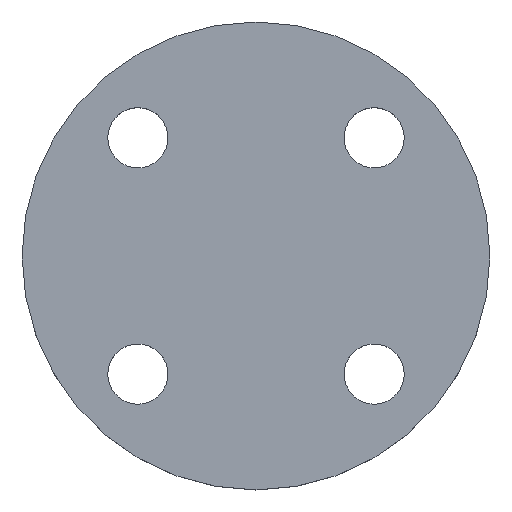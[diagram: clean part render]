
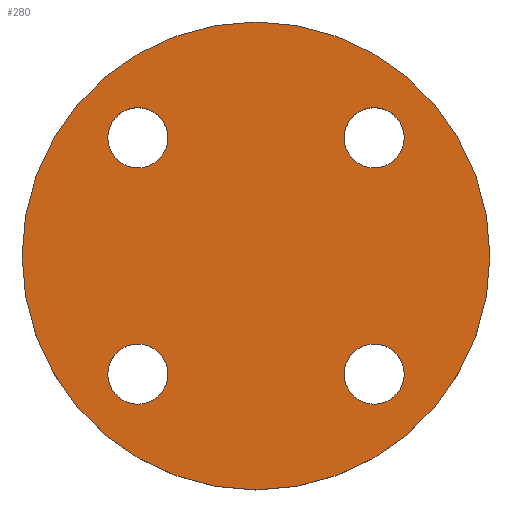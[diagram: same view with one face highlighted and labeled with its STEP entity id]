
A CAD part, top view. The second image highlights one B-rep face of the part: STEP entity #280.
In plain terms, the highlighted planar face has unit normal (0, 0, 1).
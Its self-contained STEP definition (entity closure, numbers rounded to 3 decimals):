
#4 = CIRCLE ( 'NONE', #105, 70. ) ;
#8 = CIRCLE ( 'NONE', #86, 9. ) ;
#11 = CARTESIAN_POINT ( 'NONE',  ( -26.355, 35.355, 0. ) ) ;
#13 = EDGE_CURVE ( 'NONE', #489, #406, #274, .T. ) ;
#20 = ORIENTED_EDGE ( 'NONE', *, *, #400, .T. ) ;
#23 = EDGE_CURVE ( 'NONE', #122, #54, #51, .T. ) ;
#27 = VERTEX_POINT ( 'NONE', #46 ) ;
#35 = AXIS2_PLACEMENT_3D ( 'NONE', #134, #304, #479 ) ;
#39 = ORIENTED_EDGE ( 'NONE', *, *, #364, .T. ) ;
#46 = CARTESIAN_POINT ( 'NONE',  ( -44.355, 35.355, 0. ) ) ;
#51 = CIRCLE ( 'NONE', #296, 9. ) ;
#54 = VERTEX_POINT ( 'NONE', #178 ) ;
#61 = AXIS2_PLACEMENT_3D ( 'NONE', #476, #88, #255 ) ;
#66 = EDGE_LOOP ( 'NONE', ( #403, #324 ) ) ;
#71 = DIRECTION ( 'NONE',  ( 1., 0., 0. ) ) ;
#85 = CARTESIAN_POINT ( 'NONE',  ( 0., 0., 0. ) ) ;
#86 = AXIS2_PLACEMENT_3D ( 'NONE', #150, #318, #495 ) ;
#88 = DIRECTION ( 'NONE',  ( 0., 0., -1. ) ) ;
#90 = CARTESIAN_POINT ( 'NONE',  ( -35.355, -35.355, 0. ) ) ;
#99 = EDGE_LOOP ( 'NONE', ( #559, #182 ) ) ;
#103 = CARTESIAN_POINT ( 'NONE',  ( 44.355, -35.355, 0. ) ) ;
#104 = ORIENTED_EDGE ( 'NONE', *, *, #456, .T. ) ;
#105 = AXIS2_PLACEMENT_3D ( 'NONE', #281, #458, #71 ) ;
#108 = DIRECTION ( 'NONE',  ( 0., 0., -1. ) ) ;
#113 = CIRCLE ( 'NONE', #431, 9. ) ;
#115 = VERTEX_POINT ( 'NONE', #11 ) ;
#120 = DIRECTION ( 'NONE',  ( 0., 0., -1. ) ) ;
#122 = VERTEX_POINT ( 'NONE', #184 ) ;
#124 = EDGE_LOOP ( 'NONE', ( #20, #556 ) ) ;
#125 = AXIS2_PLACEMENT_3D ( 'NONE', #511, #120, #287 ) ;
#128 = FACE_BOUND ( 'NONE', #99, .T. ) ;
#129 = DIRECTION ( 'NONE',  ( 0., 0., -1. ) ) ;
#131 = DIRECTION ( 'NONE',  ( 0., 0., -1. ) ) ;
#134 = CARTESIAN_POINT ( 'NONE',  ( 0., 0., 0. ) ) ;
#135 = AXIS2_PLACEMENT_3D ( 'NONE', #567, #131, #302 ) ;
#143 = EDGE_CURVE ( 'NONE', #115, #27, #450, .T. ) ;
#147 = CARTESIAN_POINT ( 'NONE',  ( 35.355, 35.355, 0. ) ) ;
#150 = CARTESIAN_POINT ( 'NONE',  ( 35.355, -35.355, 0. ) ) ;
#170 = FACE_BOUND ( 'NONE', #188, .T. ) ;
#172 = EDGE_CURVE ( 'NONE', #27, #115, #376, .T. ) ;
#178 = CARTESIAN_POINT ( 'NONE',  ( -44.355, -35.355, 0. ) ) ;
#182 = ORIENTED_EDGE ( 'NONE', *, *, #429, .T. ) ;
#184 = CARTESIAN_POINT ( 'NONE',  ( -26.355, -35.355, 0. ) ) ;
#188 = EDGE_LOOP ( 'NONE', ( #309, #104 ) ) ;
#199 = VERTEX_POINT ( 'NONE', #389 ) ;
#217 = AXIS2_PLACEMENT_3D ( 'NONE', #523, #129, #300 ) ;
#236 = CARTESIAN_POINT ( 'NONE',  ( 26.355, 35.355, 0. ) ) ;
#238 = CARTESIAN_POINT ( 'NONE',  ( 70., 0., 0. ) ) ;
#252 = DIRECTION ( 'NONE',  ( 0., 0., 1. ) ) ;
#255 = DIRECTION ( 'NONE',  ( -1., 0., 0. ) ) ;
#258 = DIRECTION ( 'NONE',  ( 0., 0., -1. ) ) ;
#274 = CIRCLE ( 'NONE', #35, 70. ) ;
#276 = DIRECTION ( 'NONE',  ( -1., 0., 0. ) ) ;
#280 = ADVANCED_FACE ( 'NONE', ( #170, #339, #522, #128, #299 ), #473, .T. ) ;
#281 = CARTESIAN_POINT ( 'NONE',  ( 0., 0., 0. ) ) ;
#282 = ORIENTED_EDGE ( 'NONE', *, *, #23, .T. ) ;
#287 = DIRECTION ( 'NONE',  ( -1., 0., 0. ) ) ;
#295 = CIRCLE ( 'NONE', #217, 9. ) ;
#296 = AXIS2_PLACEMENT_3D ( 'NONE', #90, #258, #437 ) ;
#299 = FACE_OUTER_BOUND ( 'NONE', #124, .T. ) ;
#300 = DIRECTION ( 'NONE',  ( -1., 0., 0. ) ) ;
#301 = CIRCLE ( 'NONE', #371, 9. ) ;
#302 = DIRECTION ( 'NONE',  ( -1., 0., 0. ) ) ;
#304 = DIRECTION ( 'NONE',  ( 0., 0., 1. ) ) ;
#309 = ORIENTED_EDGE ( 'NONE', *, *, #341, .T. ) ;
#311 = EDGE_LOOP ( 'NONE', ( #282, #39 ) ) ;
#314 = DIRECTION ( 'NONE',  ( 0., 0., -1. ) ) ;
#318 = DIRECTION ( 'NONE',  ( 0., 0., -1. ) ) ;
#319 = CARTESIAN_POINT ( 'NONE',  ( 44.355, 35.355, 0. ) ) ;
#324 = ORIENTED_EDGE ( 'NONE', *, *, #172, .T. ) ;
#339 = FACE_BOUND ( 'NONE', #311, .T. ) ;
#341 = EDGE_CURVE ( 'NONE', #467, #199, #439, .T. ) ;
#364 = EDGE_CURVE ( 'NONE', #54, #122, #295, .T. ) ;
#371 = AXIS2_PLACEMENT_3D ( 'NONE', #497, #108, #276 ) ;
#376 = CIRCLE ( 'NONE', #61, 9. ) ;
#382 = VERTEX_POINT ( 'NONE', #236 ) ;
#389 = CARTESIAN_POINT ( 'NONE',  ( 26.355, -35.355, 0. ) ) ;
#400 = EDGE_CURVE ( 'NONE', #406, #489, #4, .T. ) ;
#403 = ORIENTED_EDGE ( 'NONE', *, *, #143, .T. ) ;
#405 = CARTESIAN_POINT ( 'NONE',  ( -70., 0., 0. ) ) ;
#406 = VERTEX_POINT ( 'NONE', #238 ) ;
#429 = EDGE_CURVE ( 'NONE', #382, #491, #113, .T. ) ;
#431 = AXIS2_PLACEMENT_3D ( 'NONE', #147, #314, #492 ) ;
#432 = DIRECTION ( 'NONE',  ( 1., 0., 0. ) ) ;
#437 = DIRECTION ( 'NONE',  ( -1., 0., 0. ) ) ;
#439 = CIRCLE ( 'NONE', #125, 9. ) ;
#450 = CIRCLE ( 'NONE', #135, 9. ) ;
#456 = EDGE_CURVE ( 'NONE', #199, #467, #8, .T. ) ;
#458 = DIRECTION ( 'NONE',  ( 0., 0., 1. ) ) ;
#467 = VERTEX_POINT ( 'NONE', #103 ) ;
#473 = PLANE ( 'NONE',  #482 ) ;
#476 = CARTESIAN_POINT ( 'NONE',  ( -35.355, 35.355, 0. ) ) ;
#479 = DIRECTION ( 'NONE',  ( 1., 0., 0. ) ) ;
#482 = AXIS2_PLACEMENT_3D ( 'NONE', #85, #252, #432 ) ;
#489 = VERTEX_POINT ( 'NONE', #405 ) ;
#491 = VERTEX_POINT ( 'NONE', #319 ) ;
#492 = DIRECTION ( 'NONE',  ( -1., 0., 0. ) ) ;
#495 = DIRECTION ( 'NONE',  ( -1., 0., 0. ) ) ;
#497 = CARTESIAN_POINT ( 'NONE',  ( 35.355, 35.355, 0. ) ) ;
#506 = EDGE_CURVE ( 'NONE', #491, #382, #301, .T. ) ;
#511 = CARTESIAN_POINT ( 'NONE',  ( 35.355, -35.355, 0. ) ) ;
#522 = FACE_BOUND ( 'NONE', #66, .T. ) ;
#523 = CARTESIAN_POINT ( 'NONE',  ( -35.355, -35.355, 0. ) ) ;
#556 = ORIENTED_EDGE ( 'NONE', *, *, #13, .T. ) ;
#559 = ORIENTED_EDGE ( 'NONE', *, *, #506, .T. ) ;
#567 = CARTESIAN_POINT ( 'NONE',  ( -35.355, 35.355, 0. ) ) ;
